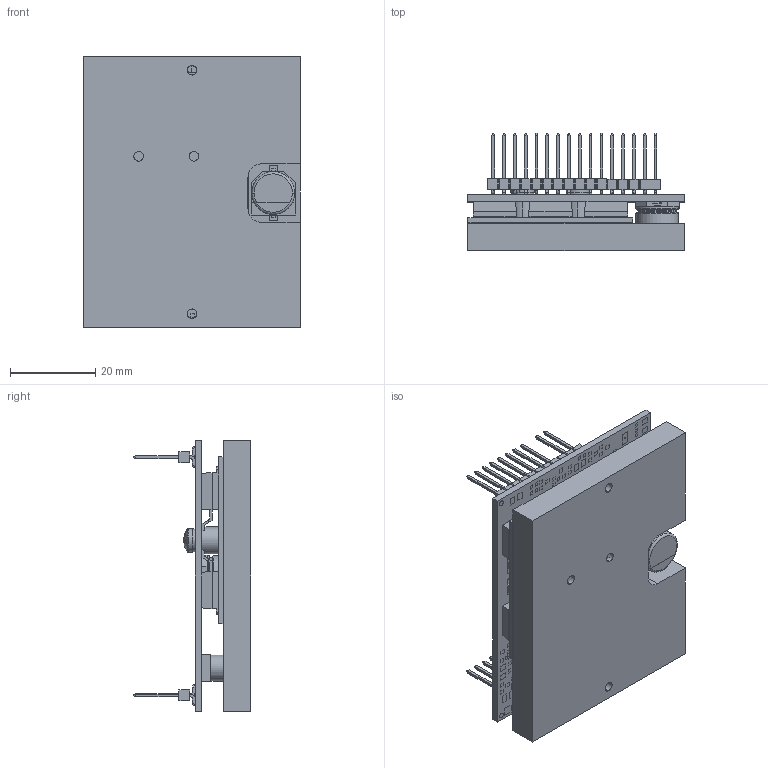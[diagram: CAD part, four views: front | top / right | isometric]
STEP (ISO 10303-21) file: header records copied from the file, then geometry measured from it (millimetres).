
FILE_DESCRIPTION((''),'2;1');
FILE_NAME('AMC_CAD_AXZV_6A8_ASM','2019-05-22T',('SYSTEM'),(''),'PRO/ENGINEER BY PARAMETRIC TECHNOLOGY CORPORATION, 2016360','PRO/ENGINEER BY PARAMETRIC TECHNOLOGY CORPORATION, 2016360','');
FILE_SCHEMA(('AUTOMOTIVE_DESIGN { 1 0 10303 214 1 1 1 1 }'));
Length unit declared in the file: inch
Products named in the file (23): P2-1-SOLID1; GP1-1-SOLID2; SP2-2-SOLID1; GP1-1-SOLID1; PCB-1-SOLID1; S2-2-SOLID1; QF6-5-SOLID1; QF1-8-SOLID1; QF2-3-SOLID1; C3-1-SOLID1; QF4-4-SOLID1; S1-1-SOLID1; QF5-2-SOLID1; GP2-2-SOLID2; P1-1-SOLID1; QF3-1-SOLID1; SP1-1-SOLID1; GP2-2-SOLID1; S2-2-SOLID2; S1-1-SOLID2; BSPLT-1-SOLID1; ASM0001_ASM; AMC_CAD_AXZV_6A8_ASM
Assembly tree (22 placements, depth 3):
  AMC_CAD_AXZV_6A8_ASM
    ASM0001_ASM
      P2-1-SOLID1
      GP1-1-SOLID2
      SP2-2-SOLID1
      GP1-1-SOLID1
      PCB-1-SOLID1
      S2-2-SOLID1
      QF6-5-SOLID1
      QF1-8-SOLID1
      QF2-3-SOLID1
      C3-1-SOLID1
      QF4-4-SOLID1
      S1-1-SOLID1
      QF5-2-SOLID1
      GP2-2-SOLID2
      P1-1-SOLID1
      QF3-1-SOLID1
      SP1-1-SOLID1
      GP2-2-SOLID1
      S2-2-SOLID2
      S1-1-SOLID2
      BSPLT-1-SOLID1
Bounding box: 50.81 x 27.51 x 63.5 mm (x, y, z)
Volume: 31045 mm3; surface area: 26848.9 mm2
Topology: 21 solids, 21 shells, 2419 faces, 7488 edges, 5999 vertices
Faces by surface type: plane 2268, cylinder 131, torus 16, sphere 4
Entity records: 128024 total; most frequent: CARTESIAN_POINT 20539, ORIENTED_EDGE 14976, DIRECTION 12138, PRESENTATION_STYLE_ASSIGNMENT 9571, STYLED_ITEM 7509, CURVE_STYLE 7488, EDGE_CURVE 7488, VECTOR 6470
